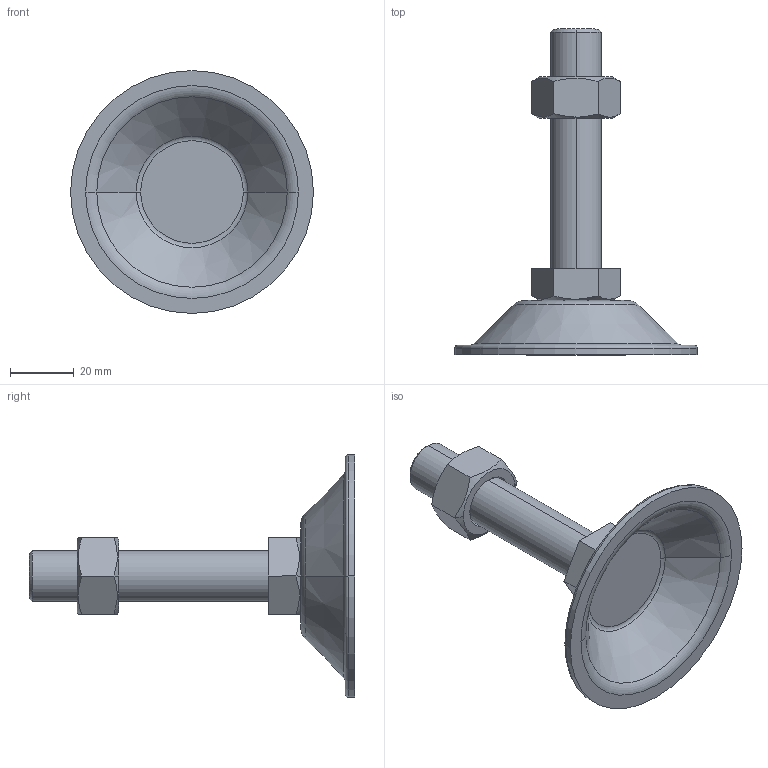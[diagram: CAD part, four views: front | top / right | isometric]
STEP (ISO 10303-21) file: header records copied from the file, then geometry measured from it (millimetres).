
FILE_DESCRIPTION (( 'STEP AP214' ), '1' );
FILE_NAME ('BL76-M16-75.step', '2021-01-06T05:40:24', ( '' ), ( '' ), 'SwSTEP 2.0', 'SolidWorks 2019', '' );
FILE_SCHEMA (( 'AUTOMOTIVE_DESIGN' ));
Length unit declared in the file: millimetre
Products named in the file (1): BL76-M16-75
Bounding box: 76 x 102 x 76 mm (x, y, z)
Volume: 39850 mm3; surface area: 19089.8 mm2
Topology: 3 solids, 3 shells, 53 faces, 110 edges, 66 vertices
Faces by surface type: plane 21, cone 16, torus 10, cylinder 6
Entity records: 1618 total; most frequent: CARTESIAN_POINT 428, DIRECTION 252, ORIENTED_EDGE 220, EDGE_CURVE 110, AXIS2_PLACEMENT_3D 106, VERTEX_POINT 66, EDGE_LOOP 58, ADVANCED_FACE 53
